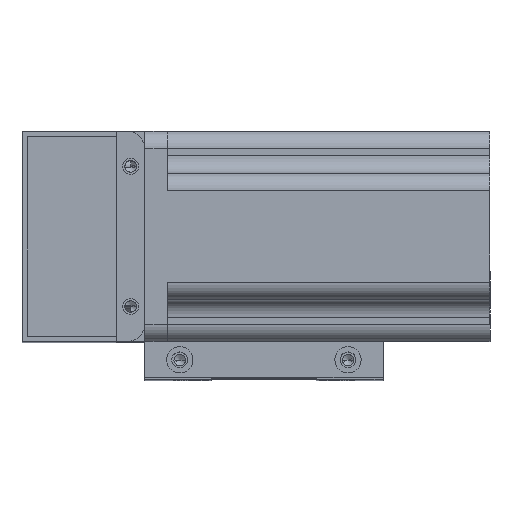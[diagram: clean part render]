
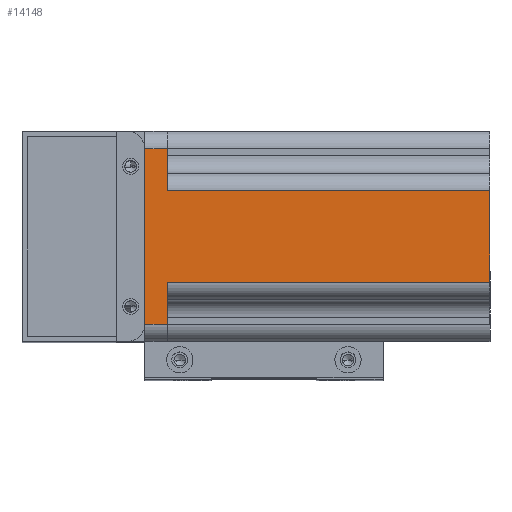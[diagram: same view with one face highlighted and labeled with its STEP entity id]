
A CAD part, top view. The second image highlights one B-rep face of the part: STEP entity #14148.
In plain terms, the highlighted planar face has unit normal (0, 0, 1) as drawn and (-1, 0, 0) by its records, which use the part's own axes.
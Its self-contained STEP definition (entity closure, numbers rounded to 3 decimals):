
#174 = LINE ( 'NONE', #3757, #1073 ) ;
#1073 = VECTOR ( 'NONE', #5804, 1000. ) ;
#1139 = VERTEX_POINT ( 'NONE', #22805 ) ;
#1888 = VECTOR ( 'NONE', #4612, 1000. ) ;
#2199 = DIRECTION ( 'NONE',  ( 0., -1., 0. ) ) ;
#2236 = EDGE_CURVE ( 'NONE', #16913, #21877, #13816, .T. ) ;
#2334 = DIRECTION ( 'NONE',  ( 0., -1., 0. ) ) ;
#2798 = VERTEX_POINT ( 'NONE', #17460 ) ;
#2863 = ORIENTED_EDGE ( 'NONE', *, *, #16619, .T. ) ;
#3054 = EDGE_CURVE ( 'NONE', #2798, #10700, #11741, .T. ) ;
#3083 = ORIENTED_EDGE ( 'NONE', *, *, #22177, .F. ) ;
#3757 = CARTESIAN_POINT ( 'NONE',  ( -30., 13., 6.5 ) ) ;
#3813 = VECTOR ( 'NONE', #20281, 1000. ) ;
#4499 = ORIENTED_EDGE ( 'NONE', *, *, #11534, .T. ) ;
#4612 = DIRECTION ( 'NONE',  ( 0., 0., -1. ) ) ;
#5089 = CARTESIAN_POINT ( 'NONE',  ( -30., -25., 6.5 ) ) ;
#5337 = VECTOR ( 'NONE', #2334, 1000. ) ;
#5479 = CARTESIAN_POINT ( 'NONE',  ( -30., -13., 6.5 ) ) ;
#5804 = DIRECTION ( 'NONE',  ( 0., 0., -1. ) ) ;
#5883 = ORIENTED_EDGE ( 'NONE', *, *, #15817, .F. ) ;
#6051 = CARTESIAN_POINT ( 'NONE',  ( -30., -25., 0. ) ) ;
#6590 = CARTESIAN_POINT ( 'NONE',  ( -30., -25., 6.5 ) ) ;
#6671 = EDGE_CURVE ( 'NONE', #2798, #6860, #10057, .T. ) ;
#6860 = VERTEX_POINT ( 'NONE', #22658 ) ;
#7129 = DIRECTION ( 'NONE',  ( 0., 0., 1. ) ) ;
#8352 = CARTESIAN_POINT ( 'NONE',  ( -30., 25., 6.5 ) ) ;
#9862 = LINE ( 'NONE', #6051, #15445 ) ;
#10057 = LINE ( 'NONE', #5479, #14439 ) ;
#10296 = DIRECTION ( 'NONE',  ( 0., 0., -1. ) ) ;
#10538 = DIRECTION ( 'NONE',  ( 1., 0., 0. ) ) ;
#10700 = VERTEX_POINT ( 'NONE', #23691 ) ;
#11313 = EDGE_CURVE ( 'NONE', #21877, #10700, #174, .T. ) ;
#11534 = EDGE_CURVE ( 'NONE', #6860, #18160, #9862, .T. ) ;
#11633 = DIRECTION ( 'NONE',  ( 0., -1., 0. ) ) ;
#11639 = LINE ( 'NONE', #22167, #23129 ) ;
#11741 = LINE ( 'NONE', #18554, #3813 ) ;
#13470 = CARTESIAN_POINT ( 'NONE',  ( -30., -25., 6.5 ) ) ;
#13816 = LINE ( 'NONE', #18642, #19730 ) ;
#13991 = ORIENTED_EDGE ( 'NONE', *, *, #3054, .F. ) ;
#14148 = ADVANCED_FACE ( 'NONE', ( #22100 ), #24374, .F. ) ;
#14439 = VECTOR ( 'NONE', #7129, 1000. ) ;
#14596 = VERTEX_POINT ( 'NONE', #5089 ) ;
#14628 = DIRECTION ( 'NONE',  ( 0., 0., -1. ) ) ;
#14985 = ORIENTED_EDGE ( 'NONE', *, *, #2236, .T. ) ;
#15445 = VECTOR ( 'NONE', #2199, 1000. ) ;
#15524 = CARTESIAN_POINT ( 'NONE',  ( -30., -25., 0. ) ) ;
#15817 = EDGE_CURVE ( 'NONE', #14596, #18160, #11639, .T. ) ;
#16619 = EDGE_CURVE ( 'NONE', #1139, #16913, #18973, .T. ) ;
#16913 = VERTEX_POINT ( 'NONE', #20935 ) ;
#17409 = EDGE_LOOP ( 'NONE', ( #13991, #18238, #4499, #5883, #3083, #2863, #14985, #19066 ) ) ;
#17460 = CARTESIAN_POINT ( 'NONE',  ( -30., -13., -92. ) ) ;
#18160 = VERTEX_POINT ( 'NONE', #15524 ) ;
#18238 = ORIENTED_EDGE ( 'NONE', *, *, #6671, .T. ) ;
#18436 = CARTESIAN_POINT ( 'NONE',  ( -30., 13., 0. ) ) ;
#18554 = CARTESIAN_POINT ( 'NONE',  ( -30., -18., -92. ) ) ;
#18642 = CARTESIAN_POINT ( 'NONE',  ( -30., -25., 0. ) ) ;
#18973 = LINE ( 'NONE', #8352, #1888 ) ;
#19066 = ORIENTED_EDGE ( 'NONE', *, *, #11313, .T. ) ;
#19730 = VECTOR ( 'NONE', #11633, 1000. ) ;
#20281 = DIRECTION ( 'NONE',  ( 0., 1., 0. ) ) ;
#20935 = CARTESIAN_POINT ( 'NONE',  ( -30., 25., 0. ) ) ;
#21812 = LINE ( 'NONE', #13470, #5337 ) ;
#21823 = AXIS2_PLACEMENT_3D ( 'NONE', #6590, #10538, #10296 ) ;
#21877 = VERTEX_POINT ( 'NONE', #18436 ) ;
#22100 = FACE_OUTER_BOUND ( 'NONE', #17409, .T. ) ;
#22167 = CARTESIAN_POINT ( 'NONE',  ( -30., -25., 6.5 ) ) ;
#22177 = EDGE_CURVE ( 'NONE', #1139, #14596, #21812, .T. ) ;
#22658 = CARTESIAN_POINT ( 'NONE',  ( -30., -13., 0. ) ) ;
#22805 = CARTESIAN_POINT ( 'NONE',  ( -30., 25., 6.5 ) ) ;
#23129 = VECTOR ( 'NONE', #14628, 1000. ) ;
#23691 = CARTESIAN_POINT ( 'NONE',  ( -30., 13., -92. ) ) ;
#24374 = PLANE ( 'NONE',  #21823 ) ;
